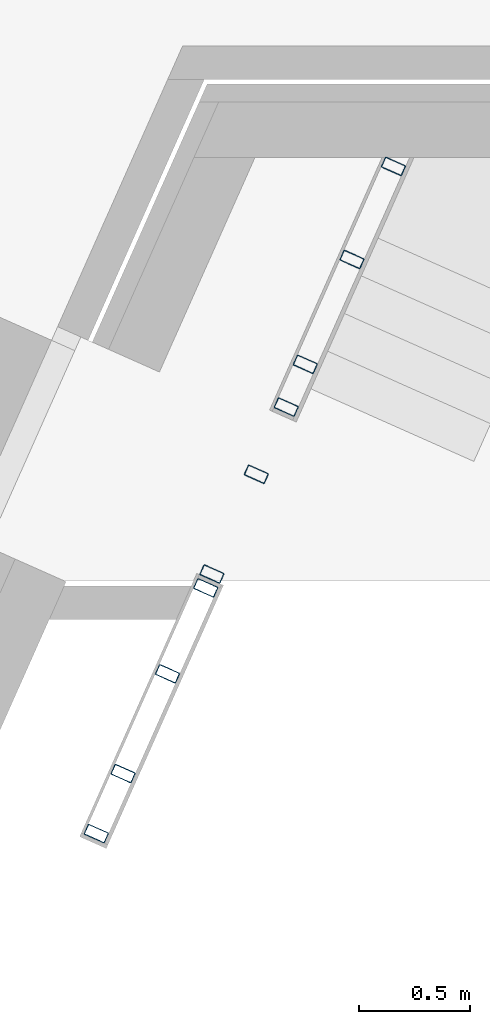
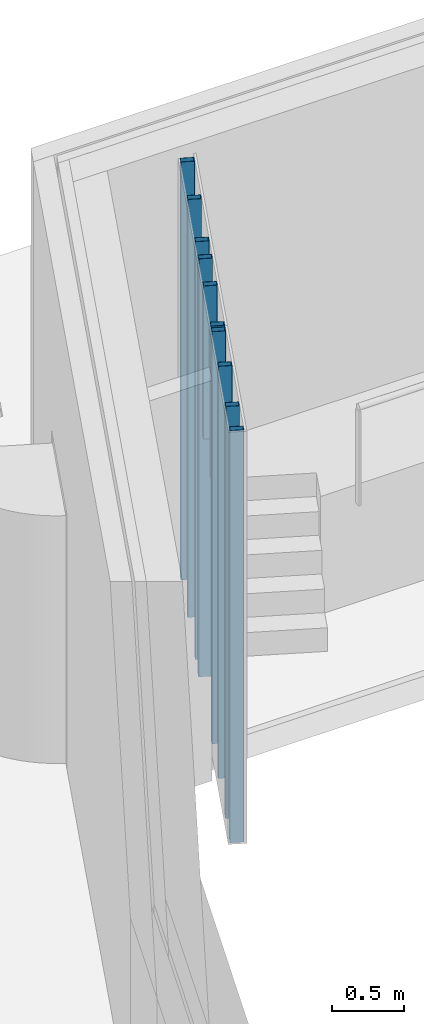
# One storey, part 2 of 16: 10 columns.
"""IFC2X3 building model written with IfcOpenShell, lengths in millimetres."""

import ifcopenshell
import ifcopenshell.guid

model = None  # the IFC model being written
_history = None  # IfcOwnerHistory: only IFC2X3 demands one
_inside = {}  # id of a spatial element -> (the spatial element, [elements in it])
_under = {}  # id of a project, library or spatial element -> (it, [spatial elements below it])
_declared = {}  # id of a project -> (the project, [libraries it declares])
_typed = {}  # id of a type object -> (the type object, [elements of that type])
_made_of = {}  # id of a material, layer set ... -> (it, [elements and type objects made of it])


def new_model(schema):
    """Start an empty IFC model of exactly this schema.

    Asked for "IFC4X3", IfcOpenShell would pick the latest addendum, in which some entities
    have other attributes; the version numbers below select the first issue.
    IFC2X3 requires an IfcOwnerHistory on every rooted entity: one is made here for all.
    """
    global model, _history
    if schema == "IFC4X3":
        model = ifcopenshell.file(schema_version=(4, 3, 0, 0))
    else:
        model = ifcopenshell.file(schema=schema)
    _inside.clear()
    _under.clear()
    _declared.clear()
    _typed.clear()
    _made_of.clear()
    _history = None
    if model.schema == "IFC2X3":
        org = make("IfcOrganization", Name="unknown")
        user = make(
            "IfcPersonAndOrganization",
            ThePerson=make("IfcPerson", FamilyName="unknown"),
            TheOrganization=org,
        )
        app = make(
            "IfcApplication",
            ApplicationDeveloper=org,
            Version="unknown",
            ApplicationFullName="unknown",
            ApplicationIdentifier="unknown",
        )
        _history = make(
            "IfcOwnerHistory",
            OwningUser=user,
            OwningApplication=app,
            ChangeAction="ADDED",
            CreationDate=0,
        )
    return model


def make(cls, **values):
    """One entity of the class cls with the attributes given. An attribute that is None is left unset."""
    return model.create_entity(
        cls, **{name: value for name, value in values.items() if value is not None}
    )


def entity(cls, *values):
    """Any entity or typed value of the class cls, its attributes in the order of the schema. None: left unset."""
    e = model.create_entity(cls)
    for i, value in enumerate(values):
        if value is not None:
            e[i] = value
    return e


def rooted(cls, **values):
    """An entity with a GlobalId (a new one), such as an element, a storey or a relation."""
    return make(cls, GlobalId=ifcopenshell.guid.new(), OwnerHistory=_history, **values)


def si_unit(unit_type, name, prefix=None):
    """IfcSIUnit, for example si_unit("LENGTHUNIT", "METRE", prefix="MILLI")."""
    return make("IfcSIUnit", UnitType=unit_type, Prefix=prefix, Name=name)


def converted_unit(unit_type, name, factor, base, dimensions=None, offset=None):
    """IfcConversionBasedUnit, such as the inch: factor (a typed value) times the base unit."""
    return make(
        "IfcConversionBasedUnit"
        if offset is None
        else "IfcConversionBasedUnitWithOffset",
        ConversionOffset=offset,
        Dimensions=None
        if dimensions is None
        else entity("IfcDimensionalExponents", *dimensions),
        UnitType=unit_type,
        Name=name,
        ConversionFactor=make(
            "IfcMeasureWithUnit", ValueComponent=factor, UnitComponent=base
        ),
    )


def derived_unit(unit_type, elements):
    """IfcDerivedUnit: a product of units, each with its exponent."""
    return make(
        "IfcDerivedUnit",
        Elements=[
            make("IfcDerivedUnitElement", Unit=unit, Exponent=power)
            for unit, power in elements
        ],
        UnitType=unit_type,
    )


def assignment(units):
    """IfcUnitAssignment: the units of a project."""
    return None if units is None else make("IfcUnitAssignment", Units=units)


def point(xyz):
    """IfcCartesianPoint."""
    return None if xyz is None else make("IfcCartesianPoint", Coordinates=xyz)


def direction(xyz):
    """IfcDirection."""
    return None if xyz is None else make("IfcDirection", DirectionRatios=xyz)


def frame(location, z_axis=None, x_axis=None):
    """IfcAxis2Placement3D, a coordinate frame: its origin and axes. An axis left out is left unset."""
    return make(
        "IfcAxis2Placement3D",
        Location=point(location),
        Axis=direction(z_axis),
        RefDirection=direction(x_axis),
    )


def frame_2d(location, x_axis=None):
    """IfcAxis2Placement2D, a coordinate frame in the plane: its origin and x axis."""
    return make(
        "IfcAxis2Placement2D", Location=point(location), RefDirection=direction(x_axis)
    )


def origin():
    """The frame at (0, 0, 0) with its axes left unset."""
    return frame((0.0, 0.0, 0.0))


def place(relative_to, where):
    """IfcLocalPlacement: puts the frame where relative to a parent placement (None: the world)."""
    return make(
        "IfcLocalPlacement", PlacementRelTo=relative_to, RelativePlacement=where
    )


def context(
    kind, dimensions, precision=None, world=None, true_north=None, identifier=None
):
    """IfcGeometricRepresentationContext, for example the 3D "Model" context."""
    return make(
        "IfcGeometricRepresentationContext",
        ContextIdentifier=identifier,
        ContextType=kind,
        CoordinateSpaceDimension=dimensions,
        Precision=precision,
        WorldCoordinateSystem=world,
        TrueNorth=true_north,
    )


def subcontext(parent, identifier, kind, view, scale=None):
    """IfcGeometricRepresentationSubContext, for example "Body" below "Model"."""
    return make(
        "IfcGeometricRepresentationSubContext",
        ContextIdentifier=identifier,
        ContextType=kind,
        ParentContext=parent,
        TargetScale=scale,
        TargetView=view,
    )


def project(units=None, contexts=None):
    """IfcProject with its units and contexts."""
    return rooted(
        "IfcProject",
        Name="project",
        RepresentationContexts=contexts,
        UnitsInContext=assignment(units),
    )


def spatial(cls, under=None, at=None, **own):
    """A site, building, storey or space (cls), placed at a placement, below another one or the project."""
    s = rooted(cls, ObjectPlacement=at, **own)
    if under is not None:
        _under.setdefault(under.id(), (under, []))[1].append(s)
    return s


def polyline(points):
    """IfcPolyline through the points."""
    return make("IfcPolyline", Points=[point(p) for p in points])


def circle_curve(where, radius):
    """IfcCircle in the frame where."""
    return make("IfcCircle", Position=where, Radius=radius)


def parameter(value):
    """IfcParameterValue: where a trimmed curve begins or ends, as a parameter of its basis curve."""
    return model.create_entity("IfcParameterValue", value)


def trimmed(basis, trim1, trim2, sense, master):
    """IfcTrimmedCurve: the piece of a basis curve between two trims."""
    return make(
        "IfcTrimmedCurve",
        BasisCurve=basis,
        Trim1=trim1,
        Trim2=trim2,
        SenseAgreement=sense,
        MasterRepresentation=master,
    )


def segment(curve, same_sense, transition):
    """IfcCompositeCurveSegment."""
    return make(
        "IfcCompositeCurveSegment",
        Transition=transition,
        SameSense=same_sense,
        ParentCurve=curve,
    )


def composite_curve(segments, self_intersect=None):
    """IfcCompositeCurve: segments joined end to end."""
    return make("IfcCompositeCurve", Segments=segments, SelfIntersect=self_intersect)


def outline(outer, holes=None, kind="AREA"):
    """IfcArbitraryClosedProfileDef: a profile drawn as a closed curve; with holes, ...WithVoids."""
    if holes is None:
        return make("IfcArbitraryClosedProfileDef", ProfileType=kind, OuterCurve=outer)
    return make(
        "IfcArbitraryProfileDefWithVoids",
        ProfileType=kind,
        OuterCurve=outer,
        InnerCurves=holes,
    )


def extrude(swept, where, along, depth):
    """IfcExtrudedAreaSolid: the profile swept, set in the frame where, extruded along a direction by depth."""
    return make(
        "IfcExtrudedAreaSolid",
        SweptArea=swept,
        Position=where,
        ExtrudedDirection=direction(along),
        Depth=depth,
    )


def shape(context_of_items, identifier, shape_type, items):
    """IfcShapeRepresentation: the items that make up one representation, for example the "Body"."""
    return make(
        "IfcShapeRepresentation",
        ContextOfItems=context_of_items,
        RepresentationIdentifier=identifier,
        RepresentationType=shape_type,
        Items=items,
    )


def source(mapping_origin, context_of_items, identifier, shape_type, items):
    """IfcRepresentationMap: a shape defined once, which mapped items show again and again."""
    return make(
        "IfcRepresentationMap",
        MappingOrigin=mapping_origin,
        MappedRepresentation=shape(context_of_items, identifier, shape_type, items),
    )


def transform(
    local_origin,
    x_axis=None,
    y_axis=None,
    z_axis=None,
    scale=None,
    scale2=None,
    scale3=None,
    uniform=True,
):
    """IfcCartesianTransformationOperator3D, or its non-uniform kind. x_axis, y_axis, z_axis: its Axis1, 2, 3."""
    if uniform:
        return make(
            "IfcCartesianTransformationOperator3D",
            Axis1=direction(x_axis),
            Axis2=direction(y_axis),
            LocalOrigin=point(local_origin),
            Scale=scale,
            Axis3=direction(z_axis),
        )
    return make(
        "IfcCartesianTransformationOperator3DnonUniform",
        Axis1=direction(x_axis),
        Axis2=direction(y_axis),
        LocalOrigin=point(local_origin),
        Scale=scale,
        Axis3=direction(z_axis),
        Scale2=scale2,
        Scale3=scale3,
    )


def mapped(mapping_source, mapping_target):
    """IfcMappedItem: shows the shape of a source again, moved by a transform."""
    return make(
        "IfcMappedItem", MappingSource=mapping_source, MappingTarget=mapping_target
    )


def material(Name=None, Category=None):
    """IfcMaterial."""
    return make("IfcMaterial", Name=Name, Category=Category)


def made_of(thing, what):
    """Note that an element or type object is made of a material, layer set ...; save() writes the relation."""
    if what is not None:
        _made_of.setdefault(what.id(), (what, []))[1].append(thing)
    return thing


def type_object(cls, material=None, **own):
    """A type object (cls), such as IfcWallType, which elements share."""
    return made_of(rooted(cls, **own), material)


def type_shapes(of_type, sources):
    """Give a type object the sources (RepresentationMaps) that its elements show as mapped items."""
    of_type.RepresentationMaps = sources


def element(
    cls,
    number,
    at=None,
    inside=None,
    cuts=None,
    type_object=None,
    material=None,
    context=None,
    identifier="Body",
    shape_type=None,
    held_by="IfcProductDefinitionShape",
    body=None,
    shapes=None,
    **own,
):
    """One element of the class cls, such as IfcWall. Its Tag is "e" and its number.

    at: its placement. inside: the storey or other place that contains it. cuts: it is an
    opening in that element (IfcRelVoidsElement). A single representation is given by context,
    identifier, shape_type and body (its items); several are given by shapes. held_by: the class
    of the entity that holds the representations. save() writes the other relations.
    """
    e = rooted(cls, Tag="e%d" % number, ObjectPlacement=at, **own)
    if body is not None:
        shapes = [shape(context, identifier, shape_type, body)]
    if shapes is not None:
        e.Representation = make(held_by, Representations=shapes)
    if inside is not None:
        _inside.setdefault(inside.id(), (inside, []))[1].append(e)
    if cuts is not None:
        rooted(
            "IfcRelVoidsElement", RelatingBuildingElement=cuts, RelatedOpeningElement=e
        )
    if type_object is not None:
        _typed.setdefault(type_object.id(), (type_object, []))[1].append(e)
    return made_of(e, material)


def aggregate(whole, parts):
    """IfcRelAggregates: a whole, such as a stair, and the parts it consists of."""
    return rooted("IfcRelAggregates", RelatingObject=whole, RelatedObjects=parts)


def save(model, path):
    """Write the relations noted so far, then the file.

    IfcRelAggregates (storeys below a building ...), IfcRelContainedInSpatialStructure (elements
    in a storey), IfcRelDefinesByType, IfcRelAssociatesMaterial and IfcRelDeclares: one each for
    every whole, place, type object, material and project.
    """
    for whole, parts in _under.values():
        aggregate(whole, parts)
    for where, things in _inside.values():
        rooted(
            "IfcRelContainedInSpatialStructure",
            RelatedElements=things,
            RelatingStructure=where,
        )
    for kind, things in _typed.values():
        rooted("IfcRelDefinesByType", RelatedObjects=things, RelatingType=kind)
    for what, things in _made_of.values():
        rooted("IfcRelAssociatesMaterial", RelatedObjects=things, RelatingMaterial=what)
    for by, libraries in _declared.values():
        rooted("IfcRelDeclares", RelatingContext=by, RelatedDefinitions=libraries)
    model.write(path)


model = new_model("IFC2X3")

# Units and contexts
model_context = context("Model", 3, precision=0.01, world=origin(), true_north=direction((6.123031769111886e-17, 1.0)))
body_context = subcontext(model_context, "Body", "Model", "MODEL_VIEW")
ifc_project = project(units=[si_unit("LENGTHUNIT", "METRE", prefix="MILLI"), si_unit("AREAUNIT", "SQUARE_METRE"), si_unit("VOLUMEUNIT", "CUBIC_METRE"), converted_unit("PLANEANGLEUNIT", "DEGREE", entity("IfcRatioMeasure", 0.017453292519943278), si_unit("PLANEANGLEUNIT", "RADIAN"), dimensions=[0, 0, 0, 0, 0, 0, 0]), si_unit("MASSUNIT", "GRAM", prefix="KILO"), derived_unit("MASSDENSITYUNIT", [(si_unit("MASSUNIT", "GRAM", prefix="KILO"), 1), (si_unit("LENGTHUNIT", "METRE"), -3)]), derived_unit("MOMENTOFINERTIAUNIT", [(si_unit("LENGTHUNIT", "METRE"), 4)]), si_unit("TIMEUNIT", "SECOND"), si_unit("FREQUENCYUNIT", "HERTZ"), si_unit("THERMODYNAMICTEMPERATUREUNIT", "DEGREE_CELSIUS"), derived_unit("THERMALTRANSMITTANCEUNIT", [(si_unit("MASSUNIT", "GRAM", prefix="KILO"), 1), (si_unit("THERMODYNAMICTEMPERATUREUNIT", "KELVIN"), -1), (si_unit("TIMEUNIT", "SECOND"), -3)]), derived_unit("VOLUMETRICFLOWRATEUNIT", [(si_unit("LENGTHUNIT", "METRE"), 3), (si_unit("TIMEUNIT", "SECOND"), -1)]), derived_unit("MASSFLOWRATEUNIT", [(si_unit("MASSUNIT", "GRAM", prefix="KILO"), 1), (si_unit("TIMEUNIT", "SECOND"), -1)]), derived_unit("ROTATIONALFREQUENCYUNIT", [(si_unit("TIMEUNIT", "SECOND"), -1)]), si_unit("ELECTRICCURRENTUNIT", "AMPERE"), si_unit("ELECTRICVOLTAGEUNIT", "VOLT"), si_unit("POWERUNIT", "WATT"), si_unit("FORCEUNIT", "NEWTON", prefix="KILO"), si_unit("ILLUMINANCEUNIT", "LUX"), si_unit("LUMINOUSFLUXUNIT", "LUMEN"), si_unit("LUMINOUSINTENSITYUNIT", "CANDELA"), derived_unit("USERDEFINED", [(si_unit("MASSUNIT", "GRAM", prefix="KILO"), -1), (si_unit("LENGTHUNIT", "METRE"), -2), (si_unit("TIMEUNIT", "SECOND"), 3), (si_unit("LUMINOUSFLUXUNIT", "LUMEN"), 1)]), derived_unit("SOUNDPOWERUNIT", [(si_unit("MASSUNIT", "GRAM", prefix="KILO"), 1), (si_unit("LENGTHUNIT", "METRE"), 2), (si_unit("TIMEUNIT", "SECOND"), -3)]), derived_unit("SOUNDPRESSUREUNIT", [(si_unit("MASSUNIT", "GRAM", prefix="KILO"), 1), (si_unit("LENGTHUNIT", "METRE"), -1), (si_unit("TIMEUNIT", "SECOND"), -2)]), derived_unit("LINEARVELOCITYUNIT", [(si_unit("LENGTHUNIT", "METRE"), 1), (si_unit("TIMEUNIT", "SECOND"), -1)]), si_unit("PRESSUREUNIT", "PASCAL"), derived_unit("USERDEFINED", [(si_unit("LENGTHUNIT", "METRE"), -2), (si_unit("MASSUNIT", "GRAM", prefix="KILO"), 1), (si_unit("TIMEUNIT", "SECOND"), -2)]), derived_unit("LINEARFORCEUNIT", [(si_unit("MASSUNIT", "GRAM", prefix="KILO"), 1), (si_unit("LENGTHUNIT", "METRE"), 1), (si_unit("TIMEUNIT", "SECOND"), -2), (si_unit("LENGTHUNIT", "METRE"), -1)]), derived_unit("PLANARFORCEUNIT", [(si_unit("MASSUNIT", "GRAM", prefix="KILO"), 1), (si_unit("LENGTHUNIT", "METRE"), 1), (si_unit("TIMEUNIT", "SECOND"), -2), (si_unit("LENGTHUNIT", "METRE"), -2)])], contexts=[model_context])

# Site, building, storey
site_placement = place(None, frame((-10000.0, -10000.0, 0.0)))
site = spatial("IfcSite", under=ifc_project, at=site_placement, Name="Default", CompositionType="ELEMENT")
building_placement = place(site_placement, origin())
building = spatial("IfcBuilding", under=site, at=building_placement, CompositionType="ELEMENT")
storey_placement = place(building_placement, frame((0.0, 0.0, 9000.0)))
storey = spatial("IfcBuildingStorey", under=building, at=storey_placement, Name="02 2e verdieping", CompositionType="ELEMENT", Elevation=9000.0)

# Columns
ifc_material = material(Name="Metal - Steel - 345 MPa")
column_type_1 = type_object("IfcColumnType", Name="Kokerprofielen_ITX(c):K100/50/2.5", PredefinedType="COLUMN", material=ifc_material)
shared_shape_1 = source(origin(), body_context, "Body", "SweptSolid", [
    extrude(outline(composite_curve([segment(polyline([(-20.0, -50.0), (20.0, -50.0)]), True, "CONTINUOUS"), segment(trimmed(circle_curve(frame_2d((20.0, -45.0), x_axis=(-1.0, 0.0)), 4.99999999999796), [parameter(90.00000000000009)], [parameter(180.00000000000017)], True, "PARAMETER"), True, "CONTINUOUS"), segment(polyline([(25.0, -45.0), (25.0, 45.0)]), True, "CONTINUOUS"), segment(trimmed(circle_curve(frame_2d((20.0, 45.0), x_axis=(-1.0, 0.0)), 4.999999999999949), [parameter(180.00000000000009)], [parameter(269.99999999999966)], True, "PARAMETER"), True, "CONTINUOUS"), segment(polyline([(20.0, 50.0), (-20.0, 50.0)]), True, "CONTINUOUS"), segment(trimmed(circle_curve(frame_2d((-20.0, 45.0), x_axis=(-1.0, 0.0)), 5.000000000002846), [parameter(269.99999999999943)], [parameter(359.9999999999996)], True, "PARAMETER"), True, "CONTINUOUS"), segment(polyline([(-25.0, 45.0), (-25.0, -45.0)]), True, "CONTINUOUS"), segment(trimmed(circle_curve(frame_2d((-20.0, -45.0), x_axis=(-1.0, 0.0)), 4.999999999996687), [parameter(359.9999999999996)], [parameter(89.99999999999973)], True, "PARAMETER"), True, "CONTINUOUS")], self_intersect=False), holes=[composite_curve([segment(trimmed(circle_curve(frame_2d((-20.0, -45.0), x_axis=(-1.0, 0.0)), 2.49999999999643), [parameter(0.0)], [parameter(89.99999999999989)], True, "PARAMETER"), False, "CONTINUOUS"), segment(polyline([(-22.499999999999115, -45.0), (-22.499999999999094, 45.0)]), True, "CONTINUOUS"), segment(trimmed(circle_curve(frame_2d((-20.0, 45.0), x_axis=(-1.0, 0.0)), 2.4999999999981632), [parameter(269.9999999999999)], [parameter(0.0)], True, "PARAMETER"), False, "CONTINUOUS"), segment(polyline([(-20.0, 47.500000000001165), (20.0, 47.500000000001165)]), True, "CONTINUOUS"), segment(trimmed(circle_curve(frame_2d((20.0, 45.0), x_axis=(-1.0, 0.0)), 2.5000000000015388), [parameter(180.0000000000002)], [parameter(270.0)], True, "PARAMETER"), False, "CONTINUOUS"), segment(polyline([(22.500000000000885, 45.0), (22.500000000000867, -45.0)]), True, "CONTINUOUS"), segment(trimmed(circle_curve(frame_2d((20.0, -45.0), x_axis=(-1.0, 0.0)), 2.500000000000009), [parameter(90.0000000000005)], [parameter(179.99999999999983)], True, "PARAMETER"), False, "CONTINUOUS"), segment(polyline([(20.0, -47.499999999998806), (-20.0, -47.49999999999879)]), True, "CONTINUOUS")], self_intersect=False)]), frame((0.0, 0.0, 8950.0), z_axis=(0.0, 0.0, 1.0), x_axis=(-1.0, 0.0, 0.0)), (0.0, 0.0, 1.0), 3549.9999999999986),
])
type_shapes(column_type_1, [shared_shape_1])
for number, where, z_axis, x_axis in (
    (1, (28523.670080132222, 48224.522803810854, -9000.0), (0.0, 0.0, 1.0), (0.4067926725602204, 0.9135205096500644, 0.0)),
    (2, (28438.24361889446, 48032.68349678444, -9000.0), (0.0, 0.0, 1.0), (0.4067926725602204, 0.9135205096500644, 0.0)),
    (3, (28733.168306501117, 48694.985866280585, -9000.0), (0.0, 0.0, 1.0), (0.4067926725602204, 0.9135205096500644, 0.0)),
    (4, (28919.10999593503, 49112.5488126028, -9000.0), (0.0, 0.0, 1.0), (0.4067926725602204, 0.9135205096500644, 0.0)),
):
    element("IfcColumn", number, at=place(storey_placement, frame(where, z_axis=z_axis, x_axis=x_axis)), inside=storey, type_object=column_type_1, material=ifc_material, Name="Kokerprofielen_ITX(c):K100/50/2.5", ObjectType="Kokerprofielen_ITX(c):K100/50/2.5", context=body_context, shape_type="MappedRepresentation", body=[
        mapped(shared_shape_1, transform((0.0, 0.0, 0.0), scale=1.0)),
    ])
column_type_2 = type_object("IfcColumnType", Name="Kokerprofielen_ITX(c):K100/50/2.5", PredefinedType="COLUMN", material=ifc_material)
shared_shape_2 = source(origin(), body_context, "Body", "SweptSolid", [
    extrude(outline(composite_curve([segment(polyline([(-20.0, -50.0), (20.0, -50.0)]), True, "CONTINUOUS"), segment(trimmed(circle_curve(frame_2d((20.0, -45.0), x_axis=(-1.0, 0.0)), 4.99999999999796), [parameter(90.00000000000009)], [parameter(180.00000000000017)], True, "PARAMETER"), True, "CONTINUOUS"), segment(polyline([(25.0, -45.0), (25.0, 45.0)]), True, "CONTINUOUS"), segment(trimmed(circle_curve(frame_2d((20.0, 45.0), x_axis=(-1.0, 0.0)), 4.999999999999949), [parameter(180.00000000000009)], [parameter(269.99999999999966)], True, "PARAMETER"), True, "CONTINUOUS"), segment(polyline([(20.0, 50.0), (-20.0, 50.0)]), True, "CONTINUOUS"), segment(trimmed(circle_curve(frame_2d((-20.0, 45.0), x_axis=(-1.0, 0.0)), 5.000000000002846), [parameter(269.99999999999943)], [parameter(359.9999999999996)], True, "PARAMETER"), True, "CONTINUOUS"), segment(polyline([(-25.0, 45.0), (-25.0, -45.0)]), True, "CONTINUOUS"), segment(trimmed(circle_curve(frame_2d((-20.0, -45.0), x_axis=(-1.0, 0.0)), 4.999999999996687), [parameter(359.9999999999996)], [parameter(89.99999999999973)], True, "PARAMETER"), True, "CONTINUOUS")], self_intersect=False), holes=[composite_curve([segment(trimmed(circle_curve(frame_2d((-20.0, -45.0), x_axis=(-1.0, 0.0)), 2.49999999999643), [parameter(0.0)], [parameter(89.99999999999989)], True, "PARAMETER"), False, "CONTINUOUS"), segment(polyline([(-22.499999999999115, -45.0), (-22.499999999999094, 45.0)]), True, "CONTINUOUS"), segment(trimmed(circle_curve(frame_2d((-20.0, 45.0), x_axis=(-1.0, 0.0)), 2.4999999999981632), [parameter(269.9999999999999)], [parameter(0.0)], True, "PARAMETER"), False, "CONTINUOUS"), segment(polyline([(-20.0, 47.500000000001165), (20.0, 47.500000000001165)]), True, "CONTINUOUS"), segment(trimmed(circle_curve(frame_2d((20.0, 45.0), x_axis=(-1.0, 0.0)), 2.5000000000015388), [parameter(180.0000000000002)], [parameter(270.0)], True, "PARAMETER"), False, "CONTINUOUS"), segment(polyline([(22.500000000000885, 45.0), (22.500000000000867, -45.0)]), True, "CONTINUOUS"), segment(trimmed(circle_curve(frame_2d((20.0, -45.0), x_axis=(-1.0, 0.0)), 2.500000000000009), [parameter(90.0000000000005)], [parameter(179.99999999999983)], True, "PARAMETER"), False, "CONTINUOUS"), segment(polyline([(20.0, -47.499999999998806), (-20.0, -47.49999999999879)]), True, "CONTINUOUS")], self_intersect=False)]), frame((0.0, 0.0, 11200.0), z_axis=(0.0, 0.0, 1.0), x_axis=(-1.0, 0.0, 0.0)), (0.0, 0.0, 1.0), 1299.999999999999),
])
type_shapes(column_type_2, [shared_shape_2])
for number, where, z_axis, x_axis in (
    (5, (28304.01679907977, 47731.21515499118, -9000.0), (0.0, 0.0, 1.0), (0.4067926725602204, 0.9135205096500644, 0.0)),
    (6, (28104.688389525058, 47283.59010526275, -9000.0), (0.0, 0.0, 1.0), (0.4067926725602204, 0.9135205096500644, 0.0)),
):
    element("IfcColumn", number, at=place(storey_placement, frame(where, z_axis=z_axis, x_axis=x_axis)), inside=storey, type_object=column_type_2, material=ifc_material, Name="Kokerprofielen_ITX(c):K100/50/2.5", ObjectType="Kokerprofielen_ITX(c):K100/50/2.5", context=body_context, shape_type="MappedRepresentation", body=[
        mapped(shared_shape_2, transform((0.0, 0.0, 0.0), scale=1.0)),
    ])
column_type_3 = type_object("IfcColumnType", Name="Kokerprofielen_ITX(c):K100/50/2.5", PredefinedType="COLUMN", material=ifc_material)
shared_shape_3 = source(origin(), body_context, "Body", "SweptSolid", [
    extrude(outline(composite_curve([segment(polyline([(-20.0, -50.0), (20.0, -50.0)]), True, "CONTINUOUS"), segment(trimmed(circle_curve(frame_2d((20.0, -45.0), x_axis=(-1.0, 0.0)), 4.99999999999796), [parameter(90.0000000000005)], [parameter(180.0)], True, "PARAMETER"), True, "CONTINUOUS"), segment(polyline([(25.0, -45.0), (25.0, 45.0)]), True, "CONTINUOUS"), segment(trimmed(circle_curve(frame_2d((20.0, 45.0), x_axis=(-1.0, 0.0)), 4.999999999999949), [parameter(180.0000000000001)], [parameter(269.99999999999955)], True, "PARAMETER"), True, "CONTINUOUS"), segment(polyline([(20.0, 50.0), (-20.0, 50.0)]), True, "CONTINUOUS"), segment(trimmed(circle_curve(frame_2d((-20.0, 45.0), x_axis=(-1.0, 0.0)), 5.000000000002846), [parameter(269.9999999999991)], [parameter(359.9999999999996)], True, "PARAMETER"), True, "CONTINUOUS"), segment(polyline([(-25.0, 45.0), (-25.0, -45.0)]), True, "CONTINUOUS"), segment(trimmed(circle_curve(frame_2d((-20.0, -45.0), x_axis=(-1.0, 0.0)), 4.999999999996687), [parameter(359.9999999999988)], [parameter(89.99999999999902)], True, "PARAMETER"), True, "CONTINUOUS")], self_intersect=False), holes=[composite_curve([segment(trimmed(circle_curve(frame_2d((-20.0, -45.0), x_axis=(-1.0, 0.0)), 2.49999999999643), [parameter(4.0711099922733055e-13)], [parameter(90.0000000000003)], True, "PARAMETER"), False, "CONTINUOUS"), segment(polyline([(-22.499999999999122, -45.0), (-22.49999999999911, 45.0)]), True, "CONTINUOUS"), segment(trimmed(circle_curve(frame_2d((-20.0, 45.0), x_axis=(-1.0, 0.0)), 2.4999999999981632), [parameter(269.9999999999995)], [parameter(359.9999999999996)], True, "PARAMETER"), False, "CONTINUOUS"), segment(polyline([(-20.0, 47.50000000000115), (20.0, 47.50000000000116)]), True, "CONTINUOUS"), segment(trimmed(circle_curve(frame_2d((20.0, 45.0), x_axis=(-1.0, 0.0)), 2.5000000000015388), [parameter(179.99999999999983)], [parameter(269.9999999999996)], True, "PARAMETER"), False, "CONTINUOUS"), segment(polyline([(22.500000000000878, 45.0), (22.50000000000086, -45.0)]), True, "CONTINUOUS"), segment(trimmed(circle_curve(frame_2d((20.0, -45.0), x_axis=(-1.0, 0.0)), 2.500000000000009), [parameter(90.00000000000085)], [parameter(179.99999999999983)], True, "PARAMETER"), False, "CONTINUOUS"), segment(polyline([(20.0, -47.499999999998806), (-20.0, -47.499999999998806)]), True, "CONTINUOUS")], self_intersect=False)]), frame((0.0, 0.0, 9000.0), z_axis=(0.0, 0.0, 1.0), x_axis=(-1.0, 0.0, 0.0)), (0.0, 0.0, 1.0), 3499.999999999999),
])
type_shapes(column_type_3, [shared_shape_3])
column_1_placement = place(storey_placement, frame((27905.359979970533, 46835.965055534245, -9000.0), z_axis=(0.0, 0.0, 1.0), x_axis=(0.4067926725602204, 0.9135205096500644, 0.0)))
element("IfcColumn", 7, at=column_1_placement, inside=storey, type_object=column_type_3, material=ifc_material, Name="Kokerprofielen_ITX(c):K100/50/2.5", ObjectType="Kokerprofielen_ITX(c):K100/50/2.5", context=body_context, shape_type="MappedRepresentation", body=[
    mapped(shared_shape_3, transform((0.0, 0.0, 0.0), scale=1.0)),
])
column_type_4 = type_object("IfcColumnType", Name="Kokerprofielen_ITX(c):K100/50/2.5", PredefinedType="COLUMN", material=ifc_material)
shared_shape_4 = source(origin(), body_context, "Body", "SweptSolid", [
    extrude(outline(composite_curve([segment(polyline([(-20.0, -50.0), (20.0, -50.0)]), True, "CONTINUOUS"), segment(trimmed(circle_curve(frame_2d((20.0, -45.0), x_axis=(-1.0, 0.0)), 4.99999999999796), [parameter(90.0000000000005)], [parameter(180.0)], True, "PARAMETER"), True, "CONTINUOUS"), segment(polyline([(25.0, -45.0), (25.0, 45.0)]), True, "CONTINUOUS"), segment(trimmed(circle_curve(frame_2d((20.0, 45.0), x_axis=(-1.0, 0.0)), 4.999999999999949), [parameter(180.0000000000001)], [parameter(269.99999999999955)], True, "PARAMETER"), True, "CONTINUOUS"), segment(polyline([(20.0, 50.0), (-20.0, 50.0)]), True, "CONTINUOUS"), segment(trimmed(circle_curve(frame_2d((-20.0, 45.0), x_axis=(-1.0, 0.0)), 5.000000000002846), [parameter(269.9999999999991)], [parameter(359.9999999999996)], True, "PARAMETER"), True, "CONTINUOUS"), segment(polyline([(-25.0, 45.0), (-25.0, -45.0)]), True, "CONTINUOUS"), segment(trimmed(circle_curve(frame_2d((-20.0, -45.0), x_axis=(-1.0, 0.0)), 4.999999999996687), [parameter(359.9999999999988)], [parameter(89.99999999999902)], True, "PARAMETER"), True, "CONTINUOUS")], self_intersect=False), holes=[composite_curve([segment(trimmed(circle_curve(frame_2d((-20.0, -45.0), x_axis=(-1.0, 0.0)), 2.49999999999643), [parameter(4.0711099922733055e-13)], [parameter(90.0000000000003)], True, "PARAMETER"), False, "CONTINUOUS"), segment(polyline([(-22.499999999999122, -45.0), (-22.49999999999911, 45.0)]), True, "CONTINUOUS"), segment(trimmed(circle_curve(frame_2d((-20.0, 45.0), x_axis=(-1.0, 0.0)), 2.4999999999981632), [parameter(269.9999999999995)], [parameter(359.9999999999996)], True, "PARAMETER"), False, "CONTINUOUS"), segment(polyline([(-20.0, 47.50000000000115), (20.0, 47.50000000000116)]), True, "CONTINUOUS"), segment(trimmed(circle_curve(frame_2d((20.0, 45.0), x_axis=(-1.0, 0.0)), 2.5000000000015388), [parameter(179.99999999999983)], [parameter(269.9999999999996)], True, "PARAMETER"), False, "CONTINUOUS"), segment(polyline([(22.500000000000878, 45.0), (22.50000000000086, -45.0)]), True, "CONTINUOUS"), segment(trimmed(circle_curve(frame_2d((20.0, -45.0), x_axis=(-1.0, 0.0)), 2.500000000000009), [parameter(90.00000000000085)], [parameter(179.99999999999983)], True, "PARAMETER"), False, "CONTINUOUS"), segment(polyline([(20.0, -47.499999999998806), (-20.0, -47.499999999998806)]), True, "CONTINUOUS")], self_intersect=False)]), frame((0.0, 0.0, 9000.0), z_axis=(0.0, 0.0, 1.0), x_axis=(-1.0, 0.0, 0.0)), (0.0, 0.0, 1.0), 3499.999999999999),
])
type_shapes(column_type_4, [shared_shape_4])
column_2_placement = place(storey_placement, frame((27706.031570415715, 46388.34000580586, -9000.0), z_axis=(0.0, 0.0, 1.0), x_axis=(0.4067926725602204, 0.9135205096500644, 0.0)))
element("IfcColumn", 8, at=column_2_placement, inside=storey, type_object=column_type_4, material=ifc_material, Name="Kokerprofielen_ITX(c):K100/50/2.5", ObjectType="Kokerprofielen_ITX(c):K100/50/2.5", context=body_context, shape_type="MappedRepresentation", body=[
    mapped(shared_shape_4, transform((0.0, 0.0, 0.0), scale=1.0)),
])
column_type_5 = type_object("IfcColumnType", Name="Kokerprofielen_ITX(c):K100/50/2.5", PredefinedType="COLUMN", material=ifc_material)
shared_shape_5 = source(origin(), body_context, "Body", "SweptSolid", [
    extrude(outline(composite_curve([segment(polyline([(-20.0, -50.0), (20.0, -50.0)]), True, "CONTINUOUS"), segment(trimmed(circle_curve(frame_2d((20.0, -45.0), x_axis=(-1.0, 0.0)), 4.99999999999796), [parameter(90.0000000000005)], [parameter(180.0)], True, "PARAMETER"), True, "CONTINUOUS"), segment(polyline([(25.0, -45.0), (25.0, 45.0)]), True, "CONTINUOUS"), segment(trimmed(circle_curve(frame_2d((20.0, 45.0), x_axis=(-1.0, 0.0)), 4.999999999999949), [parameter(180.0000000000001)], [parameter(269.99999999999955)], True, "PARAMETER"), True, "CONTINUOUS"), segment(polyline([(20.0, 50.0), (-20.0, 50.0)]), True, "CONTINUOUS"), segment(trimmed(circle_curve(frame_2d((-20.0, 45.0), x_axis=(-1.0, 0.0)), 5.000000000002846), [parameter(269.9999999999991)], [parameter(359.9999999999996)], True, "PARAMETER"), True, "CONTINUOUS"), segment(polyline([(-25.0, 45.0), (-25.0, -45.0)]), True, "CONTINUOUS"), segment(trimmed(circle_curve(frame_2d((-20.0, -45.0), x_axis=(-1.0, 0.0)), 4.999999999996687), [parameter(359.9999999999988)], [parameter(89.99999999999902)], True, "PARAMETER"), True, "CONTINUOUS")], self_intersect=False), holes=[composite_curve([segment(trimmed(circle_curve(frame_2d((-20.0, -45.0), x_axis=(-1.0, 0.0)), 2.49999999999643), [parameter(4.0711099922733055e-13)], [parameter(90.0000000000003)], True, "PARAMETER"), False, "CONTINUOUS"), segment(polyline([(-22.499999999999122, -45.0), (-22.49999999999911, 45.0)]), True, "CONTINUOUS"), segment(trimmed(circle_curve(frame_2d((-20.0, 45.0), x_axis=(-1.0, 0.0)), 2.4999999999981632), [parameter(269.9999999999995)], [parameter(359.9999999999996)], True, "PARAMETER"), False, "CONTINUOUS"), segment(polyline([(-20.0, 47.50000000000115), (20.0, 47.50000000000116)]), True, "CONTINUOUS"), segment(trimmed(circle_curve(frame_2d((20.0, 45.0), x_axis=(-1.0, 0.0)), 2.5000000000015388), [parameter(179.99999999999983)], [parameter(269.9999999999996)], True, "PARAMETER"), False, "CONTINUOUS"), segment(polyline([(22.500000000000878, 45.0), (22.50000000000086, -45.0)]), True, "CONTINUOUS"), segment(trimmed(circle_curve(frame_2d((20.0, -45.0), x_axis=(-1.0, 0.0)), 2.500000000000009), [parameter(90.00000000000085)], [parameter(179.99999999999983)], True, "PARAMETER"), False, "CONTINUOUS"), segment(polyline([(20.0, -47.499999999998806), (-20.0, -47.499999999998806)]), True, "CONTINUOUS")], self_intersect=False)]), frame((0.0, 0.0, 9000.0), z_axis=(0.0, 0.0, 1.0), x_axis=(-1.0, 0.0, 0.0)), (0.0, 0.0, 1.0), 3499.999999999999),
])
type_shapes(column_type_5, [shared_shape_5])
column_3_placement = place(storey_placement, frame((27586.06862316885, 46118.943283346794, -9000.0), z_axis=(0.0, 0.0, 1.0), x_axis=(0.4067926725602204, 0.9135205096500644, 0.0)))
element("IfcColumn", 9, at=column_3_placement, inside=storey, type_object=column_type_5, material=ifc_material, Name="Kokerprofielen_ITX(c):K100/50/2.5", ObjectType="Kokerprofielen_ITX(c):K100/50/2.5", context=body_context, shape_type="MappedRepresentation", body=[
    mapped(shared_shape_5, transform((0.0, 0.0, 0.0), scale=1.0)),
])
column_type_6 = type_object("IfcColumnType", Name="Kokerprofielen_ITX(c):K100/50/2.5", PredefinedType="COLUMN", material=ifc_material)
shared_shape_6 = source(origin(), body_context, "Body", "SweptSolid", [
    extrude(outline(composite_curve([segment(polyline([(-20.0, -50.0), (20.0, -50.0)]), True, "CONTINUOUS"), segment(trimmed(circle_curve(frame_2d((20.0, -45.0), x_axis=(-1.0, 0.0)), 4.99999999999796), [parameter(90.0000000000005)], [parameter(180.0)], True, "PARAMETER"), True, "CONTINUOUS"), segment(polyline([(25.0, -45.0), (25.0, 45.0)]), True, "CONTINUOUS"), segment(trimmed(circle_curve(frame_2d((20.0, 45.0), x_axis=(-1.0, 0.0)), 4.999999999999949), [parameter(180.0000000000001)], [parameter(269.99999999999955)], True, "PARAMETER"), True, "CONTINUOUS"), segment(polyline([(20.0, 50.0), (-20.0, 50.0)]), True, "CONTINUOUS"), segment(trimmed(circle_curve(frame_2d((-20.0, 45.0), x_axis=(-1.0, 0.0)), 5.000000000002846), [parameter(269.9999999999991)], [parameter(359.9999999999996)], True, "PARAMETER"), True, "CONTINUOUS"), segment(polyline([(-25.0, 45.0), (-25.0, -45.0)]), True, "CONTINUOUS"), segment(trimmed(circle_curve(frame_2d((-20.0, -45.0), x_axis=(-1.0, 0.0)), 4.999999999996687), [parameter(359.9999999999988)], [parameter(89.99999999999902)], True, "PARAMETER"), True, "CONTINUOUS")], self_intersect=False), holes=[composite_curve([segment(trimmed(circle_curve(frame_2d((-20.0, -45.0), x_axis=(-1.0, 0.0)), 2.49999999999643), [parameter(4.0711099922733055e-13)], [parameter(90.0000000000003)], True, "PARAMETER"), False, "CONTINUOUS"), segment(polyline([(-22.499999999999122, -45.0), (-22.49999999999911, 45.0)]), True, "CONTINUOUS"), segment(trimmed(circle_curve(frame_2d((-20.0, 45.0), x_axis=(-1.0, 0.0)), 2.4999999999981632), [parameter(269.9999999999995)], [parameter(359.9999999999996)], True, "PARAMETER"), False, "CONTINUOUS"), segment(polyline([(-20.0, 47.50000000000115), (20.0, 47.50000000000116)]), True, "CONTINUOUS"), segment(trimmed(circle_curve(frame_2d((20.0, 45.0), x_axis=(-1.0, 0.0)), 2.5000000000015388), [parameter(179.99999999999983)], [parameter(269.9999999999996)], True, "PARAMETER"), False, "CONTINUOUS"), segment(polyline([(22.500000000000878, 45.0), (22.50000000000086, -45.0)]), True, "CONTINUOUS"), segment(trimmed(circle_curve(frame_2d((20.0, -45.0), x_axis=(-1.0, 0.0)), 2.500000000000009), [parameter(90.00000000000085)], [parameter(179.99999999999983)], True, "PARAMETER"), False, "CONTINUOUS"), segment(polyline([(20.0, -47.499999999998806), (-20.0, -47.499999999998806)]), True, "CONTINUOUS")], self_intersect=False)]), frame((0.0, 0.0, 9000.0), z_axis=(0.0, 0.0, 1.0), x_axis=(-1.0, 0.0, 0.0)), (0.0, 0.0, 1.0), 3499.999999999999),
])
type_shapes(column_type_6, [shared_shape_6])
column_4_placement = place(storey_placement, frame((28077.02648779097, 47221.470710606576, -9000.0), z_axis=(0.0, 0.0, 1.0), x_axis=(0.4067926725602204, 0.9135205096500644, 0.0)))
element("IfcColumn", 10, at=column_4_placement, inside=storey, type_object=column_type_6, material=ifc_material, Name="Kokerprofielen_ITX(c):K100/50/2.5", ObjectType="Kokerprofielen_ITX(c):K100/50/2.5", context=body_context, shape_type="MappedRepresentation", body=[
    mapped(shared_shape_6, transform((0.0, 0.0, 0.0), scale=1.0)),
])

save(model, "model.ifc")
